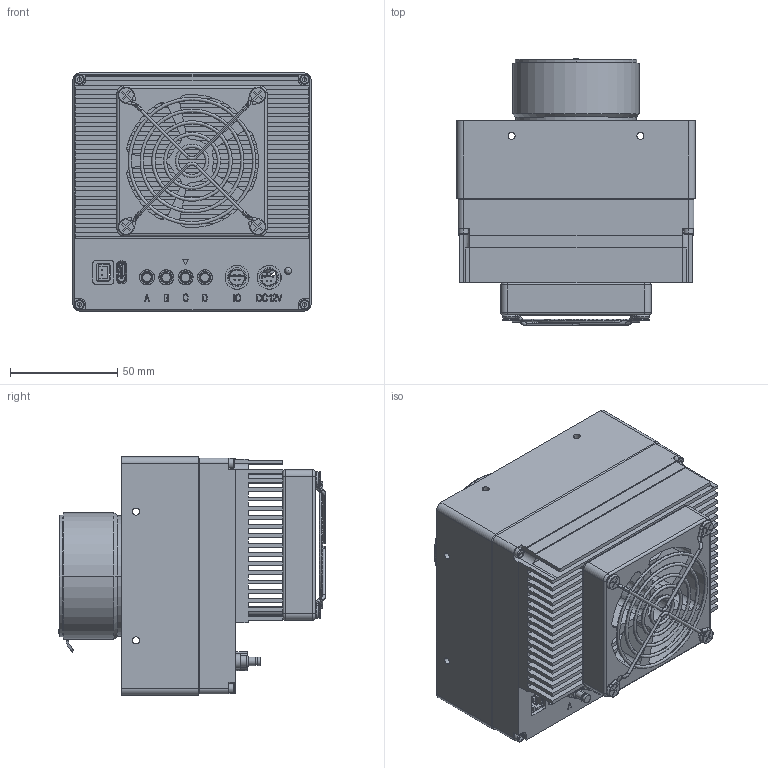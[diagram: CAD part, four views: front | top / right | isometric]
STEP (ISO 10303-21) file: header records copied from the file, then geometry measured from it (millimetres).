
FILE_DESCRIPTION (( 'STEP AP203' ), '1' );
FILE_NAME ('TTS65MCXP-31M-A01-V1.4.0-三维模型.STEP', '2022-12-05T12:39:55', ( '微软用户' ), ( '微软中国' ), 'SwSTEP 2.0', 'SolidWorks 2017', '' );
FILE_SCHEMA (( 'CONFIG_CONTROL_DESIGN' ));
Length unit declared in the file: millimetre
Products named in the file (1): TTS65MCXP-31M-A01-V1.4.0-三维模型
Bounding box: 111 x 124.65 x 111 mm (x, y, z)
Surface area: 149234.4 mm2 (no closed solid volume)
Topology: 0 solids, 82 shells, 954 faces, 3345 edges, 2421 vertices
Faces by surface type: plane 442, cylinder 329, bspline 86, cone 70, torus 16, sphere 11
Entity records: 39685 total; most frequent: CARTESIAN_POINT 11515, DIRECTION 5882, ORIENTED_EDGE 5239, EDGE_CURVE 3314, VERTEX_POINT 2409, VECTOR 1966, LINE 1966, AXIS2_PLACEMENT_3D 1958
